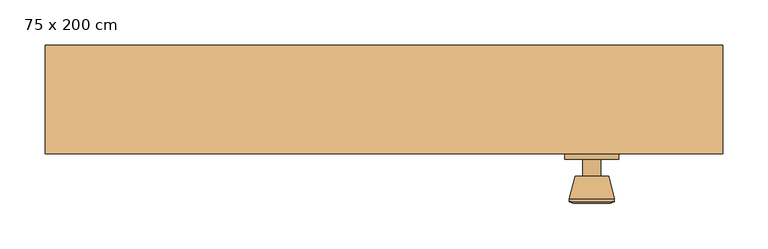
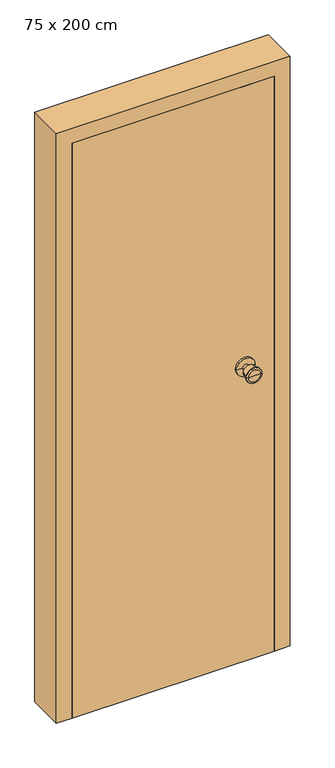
"""IFC4 building model written with IfcOpenShell, lengths in millimetres: door geometry, 單開-矩形- (1) : 75 x 200 cm."""

from ifc_helpers import new_model, si_unit, frame, origin, origin_with_axes, place, context, project, spatial, polyline, circle_curve, outline, extrude, faceted_brep, source, transform, mapped, element, save
from ifc_brep_helpers import plane_surface, cylinder_surface, revolved_surface, advanced_brep


def door_75_x_200_cm_1c1e0038(model_context):
    return source(origin(), model_context, "Body", "SolidModel", [
        advanced_brep(
        [(260.0, 144.0, 1000.0), (200.0, 144.0, 1000.0), (200.0, 150.0, 1000.0), (260.0, 150.0, 1000.0), (240.0, 144.0, 1000.0), (220.0, 144.0, 1000.0), (240.0, 125.0, 1000.0), (220.0, 125.0, 1000.0), (248.6, 125.0, 1000.0), (211.4, 125.0, 1000.0), (255.0, 100.3, 1000.0), (205.0, 100.3, 1000.0), (255.0, 96.8, 1000.0), (205.0, 96.8, 1000.0), (250.5, 95.0, 1000.0), (209.5, 95.0, 1000.0), (230.0, 95.0, 1000.0), (230.0, 150.0, 1000.0)],
        [
            (0, 1, circle_curve(frame((230.0, 144.0, 1000.0), z_axis=(0.0, 1.0, 0.0), x_axis=(-1.0, 0.0, 0.0)), 30.0)),
            (1, 2),
            (2, 3, circle_curve(frame((230.0, 150.0, 1000.0), z_axis=(0.0, -1.0, 0.0), x_axis=(-1.0, 0.0, 0.0)), 30.0)),
            (3, 0),
            (1, 0, circle_curve(frame((230.0, 144.0, 1000.0), z_axis=(0.0, 1.0, 0.0), x_axis=(-1.0, 0.0, 0.0)), 30.0)),
            (3, 2, circle_curve(frame((230.0, 150.0, 1000.0), z_axis=(0.0, -1.0, 0.0), x_axis=(-1.0, 0.0, 0.0)), 30.0)),
            (4, 5, circle_curve(frame((230.0, 144.0, 1000.0), z_axis=(0.0, 1.0, 0.0), x_axis=(-1.0, 0.0, 0.0)), 10.0)),
            (5, 1),
            (0, 4),
            (5, 4, circle_curve(frame((230.0, 144.0, 1000.0), z_axis=(0.0, 1.0, 0.0), x_axis=(-1.0, 0.0, 0.0)), 10.0)),
            (6, 7, circle_curve(frame((230.0, 125.0, 1000.0), z_axis=(0.0, 1.0, 0.0), x_axis=(-1.0, 0.0, 0.0)), 10.0)),
            (7, 5),
            (4, 6),
            (7, 6, circle_curve(frame((230.0, 125.0, 1000.0), z_axis=(0.0, 1.0, 0.0), x_axis=(-1.0, 0.0, 0.0)), 10.0)),
            (8, 9, circle_curve(frame((230.0, 125.0, 1000.0), z_axis=(0.0, 1.0, 0.0), x_axis=(-1.0, 0.0, 0.0)), 18.6)),
            (9, 7),
            (6, 8),
            (9, 8, circle_curve(frame((230.0, 125.0, 1000.0), z_axis=(0.0, 1.0, 0.0), x_axis=(-1.0, 0.0, 0.0)), 18.6)),
            (10, 11, circle_curve(frame((230.0, 100.3, 1000.0), z_axis=(0.0, 1.0, 0.0), x_axis=(-1.0, 0.0, 0.0)), 25.0)),
            (11, 9),
            (8, 10),
            (11, 10, circle_curve(frame((230.0, 100.3, 1000.0), z_axis=(0.0, 1.0, 0.0), x_axis=(-1.0, 0.0, 0.0)), 25.0)),
            (12, 13, circle_curve(frame((230.0, 96.8, 1000.0), z_axis=(0.0, 1.0, 0.0), x_axis=(-1.0, 0.0, 0.0)), 25.0)),
            (13, 11),
            (10, 12),
            (13, 12, circle_curve(frame((230.0, 96.8, 1000.0), z_axis=(0.0, 1.0, 0.0), x_axis=(-1.0, 0.0, 0.0)), 25.0)),
            (14, 15, circle_curve(frame((230.0, 95.0, 1000.0), z_axis=(0.0, 1.0, 0.0), x_axis=(-1.0, 0.0, 0.0)), 20.5)),
            (15, 13),
            (12, 14),
            (15, 14, circle_curve(frame((230.0, 95.0, 1000.0), z_axis=(0.0, 1.0, 0.0), x_axis=(-1.0, 0.0, 0.0)), 20.5)),
            (16, 15),
            (14, 16),
            (2, 17),
            (17, 3),
        ],
        [
            cylinder_surface(frame((230.0, 210.0, 1000.0), z_axis=(0.0, -1.0, 0.0), x_axis=(-1.0, 0.0, 0.0)), 30.0),
            plane_surface(frame((230.0, 144.0, 1000.0), z_axis=(0.0, -1.0, 0.0), x_axis=(-1.0, 0.0, 0.0))),
            cylinder_surface(frame((230.0, 210.0, 1000.0), z_axis=(0.0, -1.0, 0.0), x_axis=(-1.0, 0.0, 0.0)), 10.0),
            plane_surface(frame((230.0, 125.0, 1000.0), z_axis=(0.0, 1.0, 0.0), x_axis=(-1.0, 0.0, 0.0))),
            revolved_surface(polyline([(211.4, 125.0, 1000.0), (205.0, 100.3, 1000.0)]), (230.0, 210.0, 1000.0), (0.0, -1.0, 0.0)),
            cylinder_surface(frame((230.0, 210.0, 1000.0), z_axis=(0.0, -1.0, 0.0), x_axis=(-1.0, 0.0, 0.0)), 25.0),
            revolved_surface(polyline([(205.0, 96.8, 1000.0), (209.5, 95.0, 1000.0)]), (230.0, 210.0, 1000.0), (0.0, -1.0, 0.0)),
            plane_surface(frame((230.0, 95.0, 1000.0), z_axis=(0.0, -1.0, 0.0), x_axis=(-1.0, 0.0, 0.0))),
            plane_surface(frame((230.0, 150.0, 1000.0), z_axis=(0.0, 1.0, 0.0), x_axis=(-1.0, 0.0, 0.0))),
        ],
        [
            (0, [[1, 2, 3, 4]]),
            (0, [[5, -4, 6, -2]]),
            (1, [[7, 8, -1, 9]]),
            (1, [[10, -9, -5, -8]]),
            (2, [[11, 12, -7, 13]]),
            (2, [[14, -13, -10, -12]]),
            (3, [[15, 16, -11, 17]]),
            (3, [[18, -17, -14, -16]]),
            (4, [[19, 20, -15, 21]]),
            (4, [[22, -21, -18, -20]]),
            (5, [[23, 24, -19, 25]]),
            (5, [[26, -25, -22, -24]]),
            (6, [[27, 28, -23, 29]]),
            (6, [[30, -29, -26, -28]]),
            (7, [[31, -27, 32]]),
            (7, [[-32, -30, -31]]),
            (8, [[-3, 33, 34]]),
            (8, [[-6, -34, -33]]),
        ],
    ),
        advanced_brep(
        [(260.0, 196.0, 1000.0), (260.0, 190.0, 1000.0), (200.0, 190.0, 1000.0), (200.0, 196.0, 1000.0), (240.0, 196.0, 1000.0), (220.0, 196.0, 1000.0), (240.0, 215.0, 1000.0), (220.0, 215.0, 1000.0), (248.6, 215.0, 1000.0), (211.4, 215.0, 1000.0), (255.0, 239.7, 1000.0), (205.0, 239.7, 1000.0), (255.0, 243.2, 1000.0), (205.0, 243.2, 1000.0), (250.5, 245.0, 1000.0), (209.5, 245.0, 1000.0), (230.0, 245.0, 1000.0), (230.0, 190.0, 1000.0)],
        [
            (0, 1),
            (1, 2, circle_curve(frame((230.0, 190.0, 1000.0), z_axis=(0.0, 1.0, 0.0), x_axis=(-1.0, 0.0, 0.0)), 30.0)),
            (2, 3),
            (3, 0, circle_curve(frame((230.0, 196.0, 1000.0), z_axis=(0.0, -1.0, 0.0), x_axis=(-1.0, 0.0, 0.0)), 30.0)),
            (2, 1, circle_curve(frame((230.0, 190.0, 1000.0), z_axis=(0.0, 1.0, 0.0), x_axis=(-1.0, 0.0, 0.0)), 30.0)),
            (0, 3, circle_curve(frame((230.0, 196.0, 1000.0), z_axis=(0.0, -1.0, 0.0), x_axis=(-1.0, 0.0, 0.0)), 30.0)),
            (4, 0),
            (3, 5),
            (5, 4, circle_curve(frame((230.0, 196.0, 1000.0), z_axis=(0.0, -1.0, 0.0), x_axis=(-1.0, 0.0, 0.0)), 10.0)),
            (4, 5, circle_curve(frame((230.0, 196.0, 1000.0), z_axis=(0.0, -1.0, 0.0), x_axis=(-1.0, 0.0, 0.0)), 10.0)),
            (6, 4),
            (5, 7),
            (7, 6, circle_curve(frame((230.0, 215.0, 1000.0), z_axis=(0.0, -1.0, 0.0), x_axis=(-1.0, 0.0, 0.0)), 10.0)),
            (6, 7, circle_curve(frame((230.0, 215.0, 1000.0), z_axis=(0.0, -1.0, 0.0), x_axis=(-1.0, 0.0, 0.0)), 10.0)),
            (8, 6),
            (7, 9),
            (9, 8, circle_curve(frame((230.0, 215.0, 1000.0), z_axis=(0.0, -1.0, 0.0), x_axis=(-1.0, 0.0, 0.0)), 18.6)),
            (8, 9, circle_curve(frame((230.0, 215.0, 1000.0), z_axis=(0.0, -1.0, 0.0), x_axis=(-1.0, 0.0, 0.0)), 18.6)),
            (10, 8),
            (9, 11),
            (11, 10, circle_curve(frame((230.0, 239.7, 1000.0), z_axis=(0.0, -1.0, 0.0), x_axis=(-1.0, 0.0, 0.0)), 25.0)),
            (10, 11, circle_curve(frame((230.0, 239.7, 1000.0), z_axis=(0.0, -1.0, 0.0), x_axis=(-1.0, 0.0, 0.0)), 25.0)),
            (12, 10),
            (11, 13),
            (13, 12, circle_curve(frame((230.0, 243.2, 1000.0), z_axis=(0.0, -1.0, 0.0), x_axis=(-1.0, 0.0, 0.0)), 25.0)),
            (12, 13, circle_curve(frame((230.0, 243.2, 1000.0), z_axis=(0.0, -1.0, 0.0), x_axis=(-1.0, 0.0, 0.0)), 25.0)),
            (14, 12),
            (13, 15),
            (15, 14, circle_curve(frame((230.0, 245.0, 1000.0), z_axis=(0.0, -1.0, 0.0), x_axis=(-1.0, 0.0, 0.0)), 20.5)),
            (14, 15, circle_curve(frame((230.0, 245.0, 1000.0), z_axis=(0.0, -1.0, 0.0), x_axis=(-1.0, 0.0, 0.0)), 20.5)),
            (16, 14),
            (15, 16),
            (1, 17),
            (17, 2),
        ],
        [
            cylinder_surface(frame((230.0, 130.0, 1000.0), z_axis=(0.0, 1.0, 0.0), x_axis=(-1.0, 0.0, 0.0)), 30.0),
            plane_surface(frame((230.0, 196.0, 1000.0), z_axis=(0.0, 1.0, 0.0), x_axis=(-1.0, 0.0, 0.0))),
            cylinder_surface(frame((230.0, 130.0, 1000.0), z_axis=(0.0, 1.0, 0.0), x_axis=(-1.0, 0.0, 0.0)), 10.0),
            plane_surface(frame((230.0, 215.0, 1000.0), z_axis=(0.0, -1.0, 0.0), x_axis=(-1.0, 0.0, 0.0))),
            revolved_surface(polyline([(211.4, 215.0, 1000.0), (205.0, 239.7, 1000.0)]), (230.0, 130.0, 1000.0), (0.0, 1.0, 0.0)),
            cylinder_surface(frame((230.0, 130.0, 1000.0), z_axis=(0.0, 1.0, 0.0), x_axis=(-1.0, 0.0, 0.0)), 25.0),
            revolved_surface(polyline([(205.0, 243.2, 1000.0), (209.5, 245.0, 1000.0)]), (230.0, 130.0, 1000.0), (0.0, 1.0, 0.0)),
            plane_surface(frame((230.0, 245.0, 1000.0), z_axis=(0.0, 1.0, 0.0), x_axis=(-1.0, 0.0, 0.0))),
            plane_surface(frame((230.0, 190.0, 1000.0), z_axis=(0.0, -1.0, 0.0), x_axis=(-1.0, 0.0, 0.0))),
        ],
        [
            (0, [[1, 2, 3, 4]]),
            (0, [[-3, 5, -1, 6]]),
            (1, [[7, -4, 8, 9]]),
            (1, [[-8, -6, -7, 10]]),
            (2, [[11, -9, 12, 13]]),
            (2, [[-12, -10, -11, 14]]),
            (3, [[15, -13, 16, 17]]),
            (3, [[-16, -14, -15, 18]]),
            (4, [[19, -17, 20, 21]]),
            (4, [[-20, -18, -19, 22]]),
            (5, [[23, -21, 24, 25]]),
            (5, [[-24, -22, -23, 26]]),
            (6, [[27, -25, 28, 29]]),
            (6, [[-28, -26, -27, 30]]),
            (7, [[31, -29, 32]]),
            (7, [[-32, -30, -31]]),
            (8, [[33, 34, -2]]),
            (8, [[-34, -33, -5]]),
        ],
    ),
        extrude(outline(polyline([(325.0, 190.0), (325.0, 150.0), (-325.0, 150.0), (-325.0, 190.0), (325.0, 190.0)])), origin_with_axes(), (0.0, 0.0, 1.0), 1950.0),
        faceted_brep([(325.0, 150.0, 0.0), (325.0, 190.0, 0.0), (305.0, 190.0, 0.0), (305.0, 270.0, 0.0), (375.0, 270.0, 0.0), (375.0, 150.0, 0.0), (375.0, 150.0, 2000.0), (-375.0, 150.0, 2000.0), (-375.0, 150.0, 0.0), (-325.0, 150.0, 0.0), (-325.0, 150.0, 1950.0), (325.0, 150.0, 1950.0), (375.0, 270.0, 2000.0), (305.0, 270.0, 1930.0), (-305.0, 270.0, 1930.0), (-305.0, 270.0, 0.0), (-375.0, 270.0, 0.0), (-375.0, 270.0, 2000.0), (305.0, 190.0, 1930.0), (325.0, 190.0, 1950.0), (-325.0, 190.0, 1950.0), (-325.0, 190.0, 0.0), (-305.0, 190.0, 0.0), (-305.0, 190.0, 1930.0)], [[[0, 1, 2, 3, 4, 5]], [[5, 6, 7, 8, 9, 10, 11, 0]], [[4, 12, 6, 5]], [[3, 13, 14, 15, 16, 17, 12, 4]], [[2, 18, 13, 3]], [[1, 19, 20, 21, 22, 23, 18, 2]], [[0, 11, 19, 1]], [[12, 17, 7, 6]], [[18, 23, 14, 13]], [[11, 10, 20, 19]], [[9, 8, 16, 15, 22, 21]], [[17, 16, 8, 7]], [[23, 22, 15, 14]], [[10, 9, 21, 20]]]),
    ])


if __name__ == "__main__":
    model = new_model("IFC4")
    model_context = context("Model", 3, world=origin())
    ifc_project = project(units=[si_unit("LENGTHUNIT", "METRE", prefix="MILLI")], contexts=[model_context])
    site = spatial("IfcSite", under=ifc_project)
    building = spatial("IfcBuilding", under=site)
    placement = place(None, origin())
    door_75_x_200_cm_shape = door_75_x_200_cm_1c1e0038(model_context)
    element("IfcDoor", 1, ObjectType="單開-矩形- (1) : 75 x 200 cm", at=placement, inside=building, context=model_context, shape_type="MappedRepresentation", body=[
        mapped(door_75_x_200_cm_shape, transform((0.0, 0.0, 0.0), x_axis=(1.0, 0.0, 0.0), y_axis=(0.0, 1.0, 0.0), z_axis=(0.0, 0.0, 1.0))),
    ])
    save(model, "model.ifc")
